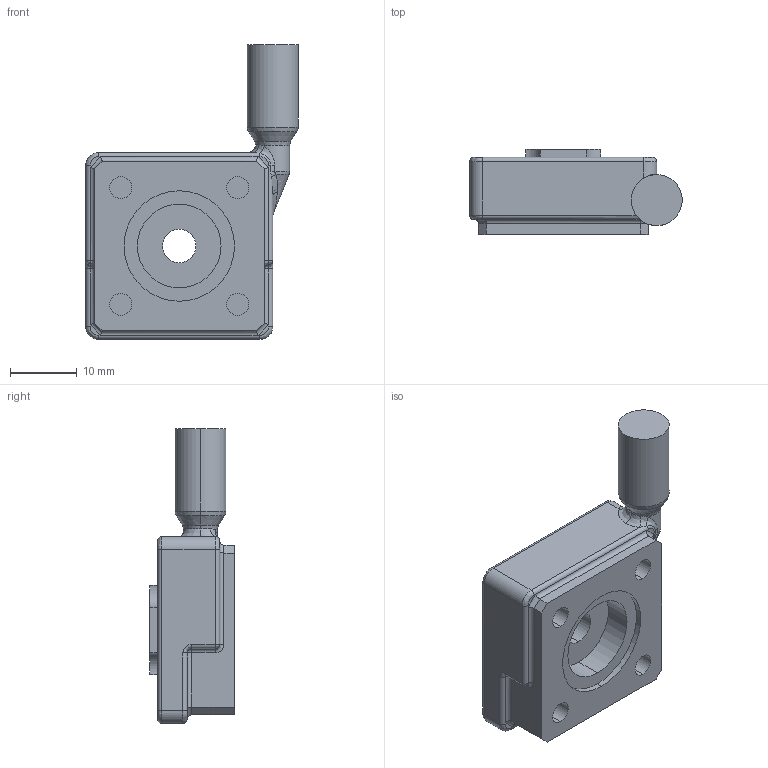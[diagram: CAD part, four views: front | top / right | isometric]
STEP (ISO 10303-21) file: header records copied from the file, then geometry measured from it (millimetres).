
FILE_DESCRIPTION (( 'STEP AP203' ), '1' );
FILE_NAME ('1007926.STEP', '2017-06-23T13:47:11', ( '' ), ( '' ), 'SwSTEP 2.0', 'SolidWorks 2014', '' );
FILE_SCHEMA (( 'CONFIG_CONTROL_DESIGN' ));
Length unit declared in the file: inch
Products named in the file (1): 1007926
Bounding box: 31.75 x 12.7 x 44.09 mm (x, y, z)
Volume: 8235.7 mm3; surface area: 3645.3 mm2
Topology: 1 solids, 1 shells, 117 faces, 267 edges, 155 vertices
Faces by surface type: cylinder 52, bspline 31, plane 30, cone 4
Entity records: 4097 total; most frequent: CARTESIAN_POINT 1552, ORIENTED_EDGE 526, DIRECTION 508, EDGE_CURVE 263, AXIS2_PLACEMENT_3D 198, VERTEX_POINT 155, EDGE_LOOP 126, ADVANCED_FACE 117
